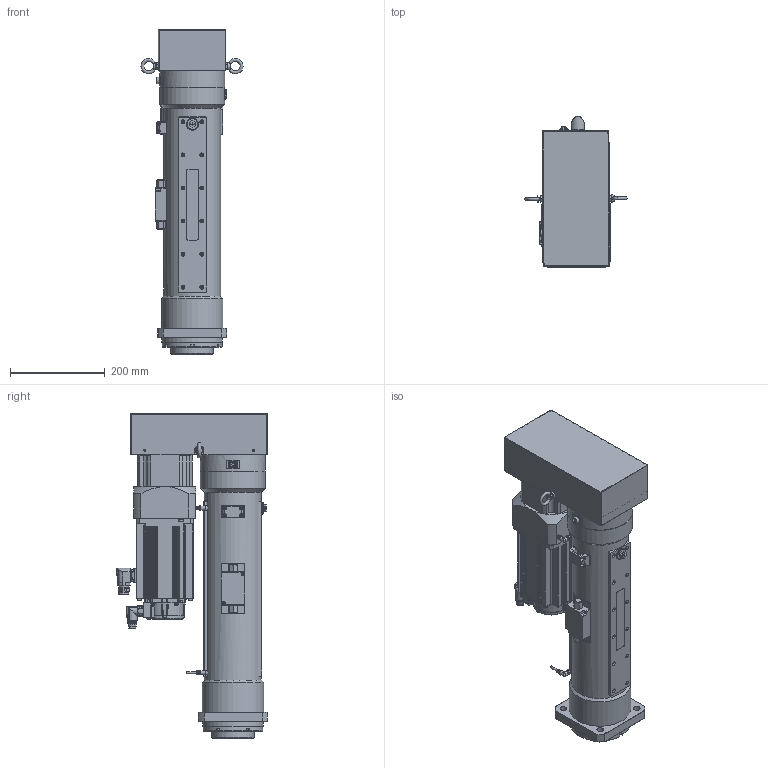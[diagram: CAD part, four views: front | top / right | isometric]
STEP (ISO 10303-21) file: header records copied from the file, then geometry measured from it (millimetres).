
FILE_DESCRIPTION(/* description */ (''),/* implementation_level */ '2;1');
FILE_NAME(/* name */ 'Z:\07.Product\01.Design\3D\1.P-All\OAICS-P\0000.Assembly\OACIS-P050,P060-300-150-A6V400.stp',/* time_stamp */ '2023-03-03T10:59:25+09:00',/* author */ ('magic'),/* organization */ (''),/* preprocessor_version */ 'ST-DEVELOPER v17',/* originating_system */ 'Autodesk Inventor 2019',/* authorisation */ '');
FILE_SCHEMA (('AUTOMOTIVE_DESIGN { 1 0 10303 214 3 1 1 }'));
Products named in the file (1): OACIS-P060-300-150-A6
Bounding box: 215.9 x 318.4 x 686 mm (x, y, z)
Volume: 10107580.4 mm3; surface area: 1307049.4 mm2
Topology: 2 solids, 7 shells, 2819 faces, 7544 edges, 4985 vertices
Faces by surface type: plane 1282, cylinder 958, cone 278, bspline 168, torus 73, sphere 60
Full cylindrical faces by diameter (mm): 1 x6, 1.25 x12, 2.232 x6, 2.8 x1, 3.242 x42, 4.134 x4, 4.5 x38, 4.917 x13, 5 x2, 5.5 x5, 5.8 x2, 6 x4, 6.647 x20, 6.7 x2, 6.75 x4, 7 x4, 7.2 x2, 7.24 x2, 7.8 x2, 8 x38, 8.5 x8, 9 x24, 9.188 x1, 9.5 x4, 10 x10, 10.106 x8, 10.3 x1, 11 x1, 12 x1, 13 x1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
Entity records: 105305 total; most frequent: CARTESIAN_POINT 31113, DIRECTION 15045, ORIENTED_EDGE 14885, EDGE_CURVE 7450, AXIS2_PLACEMENT_3D 5676, VERTEX_POINT 4985, LINE 3693, VECTOR 3693
